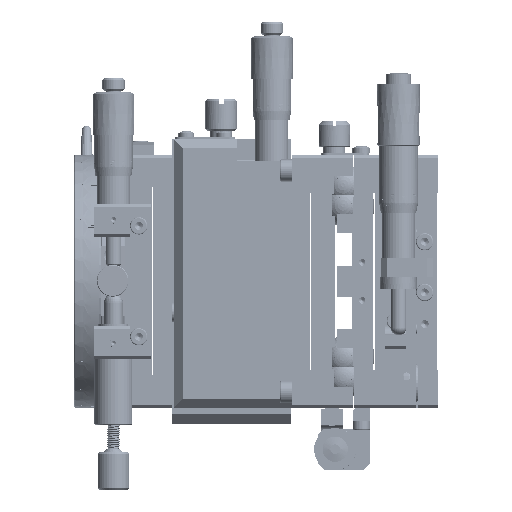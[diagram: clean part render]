
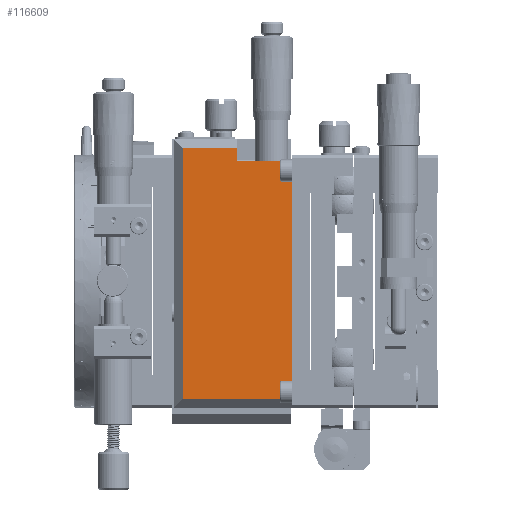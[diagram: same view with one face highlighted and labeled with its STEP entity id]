
A CAD part, left-side view. The second image highlights one B-rep face of the part: STEP entity #116609.
In plain terms, the highlighted planar face has unit normal (-1, 0, 0).
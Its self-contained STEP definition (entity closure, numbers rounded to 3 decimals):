
#1967 = CARTESIAN_POINT ( 'NONE',  ( -29., -6.5, 42. ) ) ;
#15081 = DIRECTION ( 'NONE',  ( 0., 1., 0. ) ) ;
#18272 = LINE ( 'NONE', #190567, #56175 ) ;
#30238 = CARTESIAN_POINT ( 'NONE',  ( -29., -6.5, 2.5 ) ) ;
#31237 = CARTESIAN_POINT ( 'NONE',  ( -29., -9.5, -37. ) ) ;
#51445 = CARTESIAN_POINT ( 'NONE',  ( -29., -6.5, -37. ) ) ;
#56175 = VECTOR ( 'NONE', #122528, 1000. ) ;
#80283 = LINE ( 'NONE', #340155, #520739 ) ;
#81010 = FACE_OUTER_BOUND ( 'NONE', #342333, .T. ) ;
#87082 = ORIENTED_EDGE ( 'NONE', *, *, #521248, .T. ) ;
#91219 = VECTOR ( 'NONE', #308587, 1000. ) ;
#99884 = CARTESIAN_POINT ( 'NONE',  ( -29., -6.5, 38. ) ) ;
#116609 = ADVANCED_FACE ( 'NONE', ( #81010 ), #332539, .T. ) ;
#120190 = CARTESIAN_POINT ( 'NONE',  ( -29., -9.5, 42. ) ) ;
#122528 = DIRECTION ( 'NONE',  ( 0., 0., -1. ) ) ;
#128912 = VECTOR ( 'NONE', #397385, 1000. ) ;
#134717 = CARTESIAN_POINT ( 'NONE',  ( -29., -44., 38. ) ) ;
#157390 = VERTEX_POINT ( 'NONE', #134717 ) ;
#161749 = ORIENTED_EDGE ( 'NONE', *, *, #505018, .F. ) ;
#172114 = VERTEX_POINT ( 'NONE', #31237 ) ;
#181293 = LINE ( 'NONE', #51445, #91219 ) ;
#190567 = CARTESIAN_POINT ( 'NONE',  ( -29., -26.5, 2.5 ) ) ;
#201946 = ORIENTED_EDGE ( 'NONE', *, *, #479512, .T. ) ;
#204761 = VERTEX_POINT ( 'NONE', #507555 ) ;
#215168 = EDGE_CURVE ( 'NONE', #157390, #468798, #80283, .T. ) ;
#232957 = VECTOR ( 'NONE', #365467, 1000. ) ;
#238986 = VERTEX_POINT ( 'NONE', #120190 ) ;
#271311 = EDGE_CURVE ( 'NONE', #346058, #238986, #527309, .T. ) ;
#297756 = VECTOR ( 'NONE', #15081, 1000. ) ;
#302931 = ORIENTED_EDGE ( 'NONE', *, *, #271311, .T. ) ;
#308587 = DIRECTION ( 'NONE',  ( 0., -1., 0. ) ) ;
#311857 = LINE ( 'NONE', #99884, #297756 ) ;
#312704 = ORIENTED_EDGE ( 'NONE', *, *, #215168, .F. ) ;
#321379 = CARTESIAN_POINT ( 'NONE',  ( -29., -26.5, 42. ) ) ;
#332539 = PLANE ( 'NONE',  #491750 ) ;
#335321 = DIRECTION ( 'NONE',  ( 0., -1., 0. ) ) ;
#340155 = CARTESIAN_POINT ( 'NONE',  ( -29., -44., 0. ) ) ;
#342333 = EDGE_LOOP ( 'NONE', ( #161749, #302931, #201946, #87082, #312704, #484961 ) ) ;
#346058 = VERTEX_POINT ( 'NONE', #321379 ) ;
#359886 = CARTESIAN_POINT ( 'NONE',  ( -29., -9.5, 2.5 ) ) ;
#365467 = DIRECTION ( 'NONE',  ( 0., 0., -1. ) ) ;
#397385 = DIRECTION ( 'NONE',  ( 0., 1., 0. ) ) ;
#406330 = EDGE_CURVE ( 'NONE', #157390, #204761, #311857, .T. ) ;
#413381 = LINE ( 'NONE', #359886, #232957 ) ;
#468798 = VERTEX_POINT ( 'NONE', #475733 ) ;
#475733 = CARTESIAN_POINT ( 'NONE',  ( -29., -44., -37. ) ) ;
#479512 = EDGE_CURVE ( 'NONE', #238986, #172114, #413381, .T. ) ;
#484961 = ORIENTED_EDGE ( 'NONE', *, *, #406330, .T. ) ;
#491750 = AXIS2_PLACEMENT_3D ( 'NONE', #30238, #552738, #335321 ) ;
#505018 = EDGE_CURVE ( 'NONE', #346058, #204761, #18272, .T. ) ;
#507555 = CARTESIAN_POINT ( 'NONE',  ( -29., -26.5, 38. ) ) ;
#512455 = DIRECTION ( 'NONE',  ( 0., 0., -1. ) ) ;
#520739 = VECTOR ( 'NONE', #512455, 1000. ) ;
#521248 = EDGE_CURVE ( 'NONE', #172114, #468798, #181293, .T. ) ;
#527309 = LINE ( 'NONE', #1967, #128912 ) ;
#552738 = DIRECTION ( 'NONE',  ( -1., 0., 0. ) ) ;
